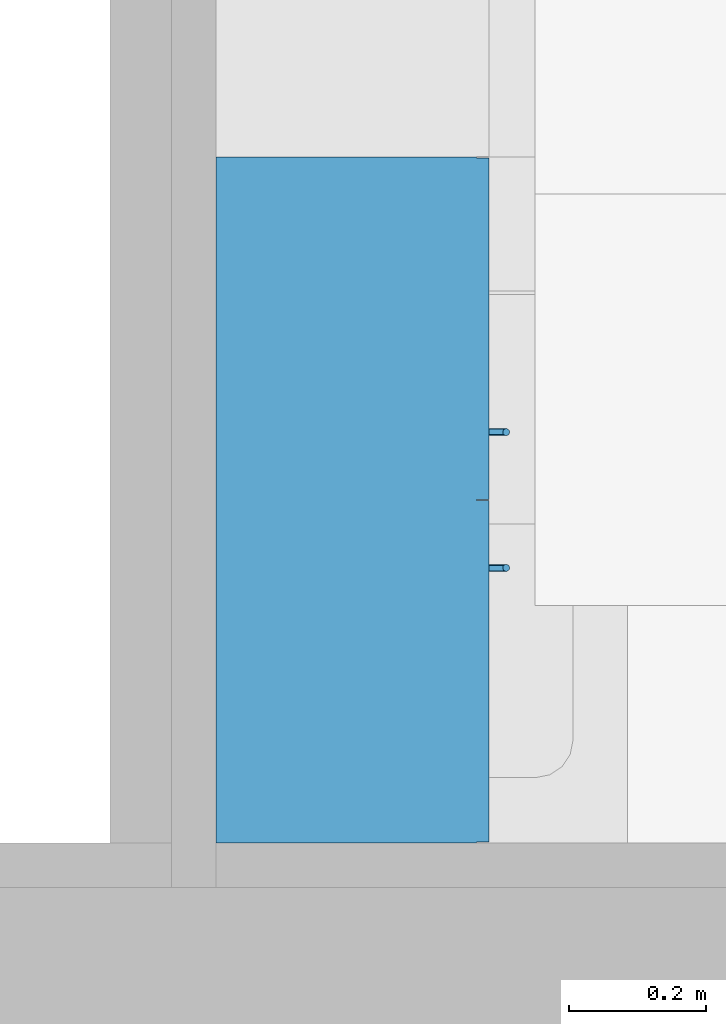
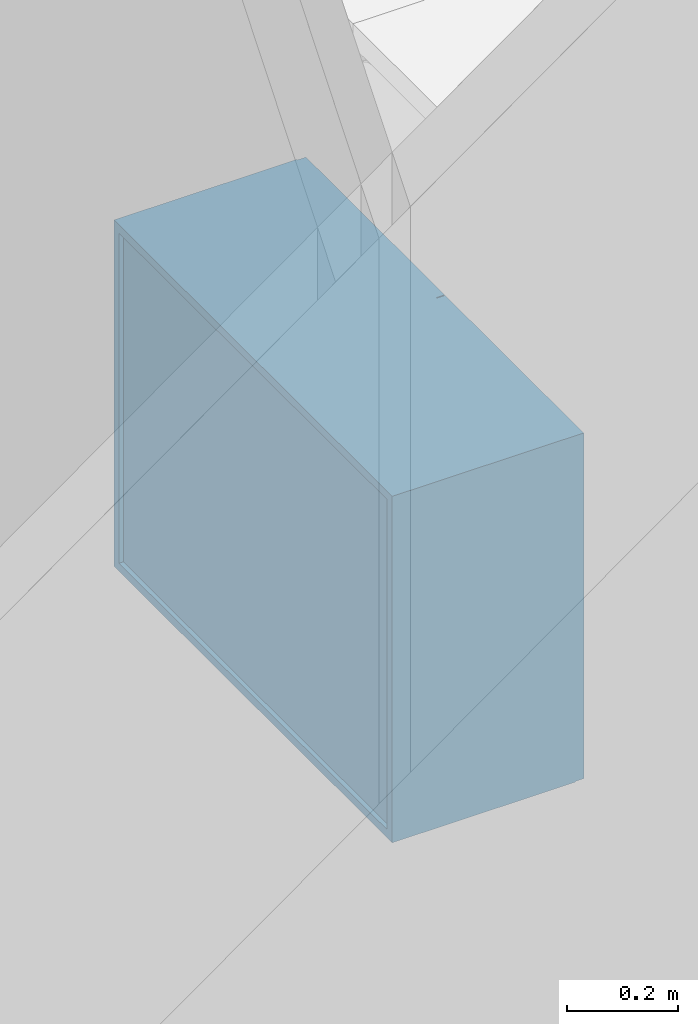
# One storey, part 44 of 60: 1 slab.
"""IFC2X3 building model written with IfcOpenShell, lengths in millimetres."""

from ifc_helpers import new_model, entity, si_unit, converted_unit, derived_unit, money_unit, direction, frame, origin_with_axes, place, context, subcontext, project, spatial, faceted_brep, type_object, element, save


model = new_model("IFC2X3")

# Units and contexts
model_context = context("Model", 3, precision=0.01, world=origin_with_axes(), true_north=direction((0.0, 1.0)))
body_context = subcontext(model_context, "Body", "Model", "MODEL_VIEW")
ifc_project = project(units=[si_unit("LENGTHUNIT", "METRE", prefix="MILLI"), si_unit("AREAUNIT", "SQUARE_METRE"), si_unit("VOLUMEUNIT", "CUBIC_METRE"), converted_unit("PLANEANGLEUNIT", "DEGREE", entity("IfcPlaneAngleMeasure", 0.0174532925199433), si_unit("PLANEANGLEUNIT", "RADIAN"), dimensions=[0, 0, 0, 0, 0, 0, 0]), money_unit("USD"), converted_unit("TIMEUNIT", "Year", entity("IfcTimeMeasure", 31557600.0), si_unit("TIMEUNIT", "SECOND"), dimensions=[0, 0, 1, 0, 0, 0, 0]), si_unit("MASSUNIT", "GRAM", prefix="KILO"), si_unit("THERMODYNAMICTEMPERATUREUNIT", "DEGREE_CELSIUS"), si_unit("LUMINOUSINTENSITYUNIT", "LUMEN"), si_unit("ENERGYUNIT", "JOULE", prefix="MEGA"), derived_unit("THERMALCONDUCTANCEUNIT", [(si_unit("POWERUNIT", "WATT"), 1), (si_unit("LENGTHUNIT", "METRE"), -1), (si_unit("THERMODYNAMICTEMPERATUREUNIT", "KELVIN"), -1)]), derived_unit("SPECIFICHEATCAPACITYUNIT", [(si_unit("ENERGYUNIT", "JOULE"), 1), (si_unit("MASSUNIT", "GRAM", prefix="KILO"), -1), (si_unit("THERMODYNAMICTEMPERATUREUNIT", "KELVIN"), -1)]), derived_unit("MASSDENSITYUNIT", [(si_unit("MASSUNIT", "GRAM", prefix="KILO"), 1), (si_unit("VOLUMEUNIT", "CUBIC_METRE"), -1)])], contexts=[model_context])

# Site, building, storey
site_placement = place(None, origin_with_axes())
site = spatial("IfcSite", under=ifc_project, at=site_placement, Name="Sitio", CompositionType="ELEMENT")
building_placement = place(site_placement, origin_with_axes())
building = spatial("IfcBuilding", under=site, at=building_placement, Name="Construcción", CompositionType="ELEMENT")
storey_placement = place(building_placement, frame((0.0, 0.0, 3650.0), z_axis=(0.0, 0.0, 1.0), x_axis=(1.0, 0.0, 0.0)))
storey = spatial("IfcBuildingStorey", under=building, at=storey_placement, Name="PLANTA 2ª", CompositionType="ELEMENT", Elevation=3650.0)

# Slab
slab_type = type_object("IfcSlabType", Name="Armario Mural 27", PredefinedType="FLOOR")
slab_placement = place(storey_placement, frame((-22963.41789761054, -1128.97582371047, -59.99999999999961), z_axis=(0.0, 0.0, 1.0), x_axis=(0.0, 1.0, 0.0)))
element("IfcSlab", 1, at=slab_placement, inside=storey, type_object=slab_type, Name="60.20.50 Armari", PredefinedType="FLOOR", context=body_context, shape_type="Brep", body=[
    faceted_brep([(18.0, -380.0, 1871.0), (982.0, -380.0, 1871.0), (982.0, -380.0, 1889.0), (18.0, -380.0, 1889.0), (18.0, -18.0, 1871.0), (982.0, -18.0, 1871.0), (982.0, -18.0, 1889.0), (18.0, -18.0, 1889.0)], [[[0, 1, 2, 3]], [[0, 4, 5, 1]], [[1, 5, 6, 2]], [[3, 2, 6, 7]], [[4, 0, 3, 7]], [[5, 4, 7, 6]]]),
    faceted_brep([(401.8682408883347, -398.0, 1932.799038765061), (402.7101007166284, -398.0, 1932.573463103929), (403.5, -398.0, 1932.205127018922), (404.2139380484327, -398.0, 1931.705222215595), (404.8302222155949, -398.0, 1931.088938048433), (405.3301270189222, -398.0, 1930.375), (405.6984631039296, -398.0, 1929.585100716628), (405.9240387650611, -398.0, 1928.743240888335), (406.0, -398.0, 1927.875), (405.9240387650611, -398.0, 1927.006759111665), (405.6984631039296, -398.0, 1926.164899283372), (405.3301270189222, -398.0, 1925.375), (404.8302222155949, -398.0, 1924.661061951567), (404.2139380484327, -398.0, 1924.044777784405), (403.5, -398.0, 1923.544872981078), (402.7101007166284, -398.0, 1923.176536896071), (401.8682408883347, -398.0, 1922.950961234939), (401.0, -398.0, 1922.875), (400.1317591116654, -398.0, 1922.950961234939), (399.2898992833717, -398.0, 1923.176536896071), (398.5, -398.0, 1923.544872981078), (397.7860619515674, -398.0, 1924.044777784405), (397.1697777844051, -398.0, 1924.661061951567), (396.6698729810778, -398.0, 1925.375), (396.3015368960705, -398.0, 1926.164899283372), (396.075961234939, -398.0, 1927.006759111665), (396.0, -398.0, 1927.875), (396.075961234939, -398.0, 1928.743240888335), (396.3015368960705, -398.0, 1929.585100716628), (396.6698729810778, -398.0, 1930.375), (397.1697777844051, -398.0, 1931.088938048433), (397.7860619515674, -398.0, 1931.705222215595), (398.5, -398.0, 1932.205127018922), (399.2898992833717, -398.0, 1932.573463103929), (400.1317591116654, -398.0, 1932.799038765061), (401.0, -398.0, 1932.875), (401.8682408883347, -423.0000000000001, 1932.799038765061), (402.7101007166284, -423.0000000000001, 1932.573463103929), (403.5, -423.0000000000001, 1932.205127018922), (404.2139380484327, -423.0000000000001, 1931.705222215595), (404.8302222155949, -423.0000000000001, 1931.088938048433), (405.3301270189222, -423.0000000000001, 1930.375), (405.6984631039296, -423.0000000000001, 1929.585100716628), (405.9240387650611, -423.0000000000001, 1928.743240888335), (406.0, -423.0000000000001, 1927.875), (405.9240387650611, -423.0000000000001, 1927.006759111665), (405.6984631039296, -423.0000000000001, 1926.164899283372), (405.3301270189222, -423.0000000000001, 1925.375), (404.8302222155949, -423.0000000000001, 1924.661061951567), (404.2139380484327, -423.0000000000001, 1924.044777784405), (403.5, -423.0000000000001, 1923.544872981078), (402.7101007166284, -423.0000000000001, 1923.176536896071), (401.8682408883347, -423.0000000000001, 1922.950961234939), (401.0, -423.0000000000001, 1922.875), (400.1317591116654, -423.0000000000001, 1922.950961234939), (399.2898992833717, -423.0000000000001, 1923.176536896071), (398.5, -423.0000000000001, 1923.544872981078), (397.7860619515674, -423.0000000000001, 1924.044777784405), (397.1697777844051, -423.0000000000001, 1924.661061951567), (396.6698729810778, -423.0000000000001, 1925.375), (396.3015368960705, -423.0000000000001, 1926.164899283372), (396.075961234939, -423.0000000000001, 1927.006759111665), (396.0, -423.0000000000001, 1927.875), (396.075961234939, -423.0000000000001, 1928.743240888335), (396.3015368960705, -423.0000000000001, 1929.585100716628), (396.6698729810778, -423.0000000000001, 1930.375), (397.1697777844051, -423.0000000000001, 1931.088938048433), (397.7860619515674, -423.0000000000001, 1931.705222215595), (398.5, -423.0000000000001, 1932.205127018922), (399.2898992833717, -423.0000000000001, 1932.573463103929), (400.1317591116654, -423.0000000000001, 1932.799038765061), (401.0, -423.0000000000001, 1932.875)], [[[0, 1, 2, 3, 4, 5, 6, 7, 8, 9, 10, 11, 12, 13, 14, 15, 16, 17, 18, 19, 20, 21, 22, 23, 24, 25, 26, 27, 28, 29, 30, 31, 32, 33, 34, 35]], [[1, 0, 36, 37]], [[2, 1, 37, 38]], [[3, 2, 38, 39]], [[4, 3, 39, 40]], [[5, 4, 40, 41]], [[6, 5, 41, 42]], [[7, 6, 42, 43]], [[8, 7, 43, 44]], [[9, 8, 44, 45]], [[10, 9, 45, 46]], [[11, 10, 46, 47]], [[12, 11, 47, 48]], [[13, 12, 48, 49]], [[14, 13, 49, 50]], [[15, 14, 50, 51]], [[16, 15, 51, 52]], [[17, 16, 52, 53]], [[18, 17, 53, 54]], [[19, 18, 54, 55]], [[20, 19, 55, 56]], [[21, 20, 56, 57]], [[22, 21, 57, 58]], [[23, 22, 58, 59]], [[24, 23, 59, 60]], [[25, 24, 60, 61]], [[26, 25, 61, 62]], [[27, 26, 62, 63]], [[28, 27, 63, 64]], [[29, 28, 64, 65]], [[30, 29, 65, 66]], [[31, 30, 66, 67]], [[32, 31, 67, 68]], [[33, 32, 68, 69]], [[34, 33, 69, 70]], [[35, 34, 70, 71]], [[0, 35, 71, 36]], [[36, 71, 70, 69, 68, 67, 66, 65, 64, 63, 62, 61, 60, 59, 58, 57, 56, 55, 54, 53, 52, 51, 50, 49, 48, 47, 46, 45, 44, 43, 42, 41, 40, 39, 38, 37]]]),
    faceted_brep([(401.8682408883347, -397.9999999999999, 1829.200961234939), (401.0, -397.9999999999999, 1829.125), (400.1317591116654, -397.9999999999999, 1829.200961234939), (399.2898992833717, -397.9999999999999, 1829.426536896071), (398.5, -397.9999999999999, 1829.794872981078), (397.7860619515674, -397.9999999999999, 1830.294777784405), (397.1697777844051, -397.9999999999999, 1830.911061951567), (396.6698729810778, -397.9999999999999, 1831.625), (396.3015368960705, -397.9999999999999, 1832.414899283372), (396.075961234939, -397.9999999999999, 1833.256759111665), (396.0, -397.9999999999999, 1834.125), (396.075961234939, -397.9999999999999, 1834.993240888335), (396.3015368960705, -397.9999999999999, 1835.835100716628), (396.6698729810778, -397.9999999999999, 1836.625), (397.1697777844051, -397.9999999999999, 1837.338938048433), (397.7860619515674, -397.9999999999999, 1837.955222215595), (398.5, -397.9999999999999, 1838.455127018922), (399.2898992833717, -397.9999999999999, 1838.823463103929), (400.1317591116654, -397.9999999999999, 1839.049038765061), (401.0, -397.9999999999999, 1839.125), (401.8682408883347, -397.9999999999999, 1839.049038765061), (402.7101007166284, -397.9999999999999, 1838.823463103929), (403.5, -397.9999999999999, 1838.455127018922), (404.2139380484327, -397.9999999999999, 1837.955222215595), (404.8302222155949, -397.9999999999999, 1837.338938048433), (405.3301270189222, -397.9999999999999, 1836.625), (405.6984631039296, -397.9999999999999, 1835.835100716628), (405.9240387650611, -397.9999999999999, 1834.993240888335), (406.0, -397.9999999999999, 1834.125), (405.9240387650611, -397.9999999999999, 1833.256759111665), (405.6984631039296, -397.9999999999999, 1832.414899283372), (405.3301270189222, -397.9999999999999, 1831.625), (404.8302222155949, -397.9999999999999, 1830.911061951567), (404.2139380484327, -397.9999999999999, 1830.294777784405), (403.5, -397.9999999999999, 1829.794872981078), (402.7101007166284, -397.9999999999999, 1829.426536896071), (401.8682408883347, -423.0, 1829.200961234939), (401.0, -423.0, 1829.125), (400.1317591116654, -423.0, 1829.200961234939), (399.2898992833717, -423.0, 1829.426536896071), (398.5, -423.0, 1829.794872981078), (397.7860619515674, -423.0, 1830.294777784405), (397.1697777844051, -423.0, 1830.911061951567), (396.6698729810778, -423.0, 1831.625), (396.3015368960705, -423.0, 1832.414899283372), (396.075961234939, -423.0, 1833.256759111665), (396.0, -423.0, 1834.125), (396.075961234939, -423.0, 1834.993240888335), (396.3015368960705, -423.0, 1835.835100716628), (396.6698729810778, -423.0, 1836.625), (397.1697777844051, -423.0, 1837.338938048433), (397.7860619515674, -423.0, 1837.955222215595), (398.5, -423.0, 1838.455127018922), (399.2898992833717, -423.0, 1838.823463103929), (400.1317591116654, -423.0, 1839.049038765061), (401.0, -423.0, 1839.125), (401.8682408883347, -423.0, 1839.049038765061), (402.7101007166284, -423.0, 1838.823463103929), (403.5, -423.0, 1838.455127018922), (404.2139380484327, -423.0, 1837.955222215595), (404.8302222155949, -423.0, 1837.338938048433), (405.3301270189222, -423.0, 1836.625), (405.6984631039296, -423.0, 1835.835100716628), (405.9240387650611, -423.0, 1834.993240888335), (406.0, -423.0, 1834.125), (405.9240387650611, -423.0, 1833.256759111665), (405.6984631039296, -423.0, 1832.414899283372), (405.3301270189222, -423.0, 1831.625), (404.8302222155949, -423.0, 1830.911061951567), (404.2139380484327, -423.0, 1830.294777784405), (403.5, -423.0, 1829.794872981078), (402.7101007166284, -423.0, 1829.426536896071)], [[[0, 1, 2, 3, 4, 5, 6, 7, 8, 9, 10, 11, 12, 13, 14, 15, 16, 17, 18, 19, 20, 21, 22, 23, 24, 25, 26, 27, 28, 29, 30, 31, 32, 33, 34, 35]], [[0, 36, 37, 1]], [[1, 37, 38, 2]], [[2, 38, 39, 3]], [[3, 39, 40, 4]], [[4, 40, 41, 5]], [[5, 41, 42, 6]], [[6, 42, 43, 7]], [[7, 43, 44, 8]], [[8, 44, 45, 9]], [[9, 45, 46, 10]], [[10, 46, 47, 11]], [[11, 47, 48, 12]], [[12, 48, 49, 13]], [[13, 49, 50, 14]], [[14, 50, 51, 15]], [[15, 51, 52, 16]], [[16, 52, 53, 17]], [[17, 53, 54, 18]], [[18, 54, 55, 19]], [[19, 55, 56, 20]], [[20, 56, 57, 21]], [[21, 57, 58, 22]], [[22, 58, 59, 23]], [[23, 59, 60, 24]], [[24, 60, 61, 25]], [[25, 61, 62, 26]], [[26, 62, 63, 27]], [[27, 63, 64, 28]], [[28, 64, 65, 29]], [[29, 65, 66, 30]], [[30, 66, 67, 31]], [[31, 67, 68, 32]], [[32, 68, 69, 33]], [[33, 69, 70, 34]], [[34, 70, 71, 35]], [[35, 71, 36, 0]], [[36, 71, 70, 69, 68, 67, 66, 65, 64, 63, 62, 61, 60, 59, 58, 57, 56, 55, 54, 53, 52, 51, 50, 49, 48, 47, 46, 45, 44, 43, 42, 41, 40, 39, 38, 37]]]),
    faceted_brep([(401.8682408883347, -418.075961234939, 1806.0), (402.7101007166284, -418.3015368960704, 1806.0), (403.5, -418.6698729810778, 1806.0), (404.2139380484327, -419.1697777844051, 1806.0), (404.8302222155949, -419.7860619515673, 1806.0), (405.3301270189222, -420.5, 1806.0), (405.6984631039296, -421.2898992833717, 1806.0), (405.9240387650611, -422.1317591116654, 1806.0), (406.0, -423.0, 1806.0), (405.9240387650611, -423.8682408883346, 1806.0), (405.6984631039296, -424.7101007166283, 1806.0), (405.3301270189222, -425.5, 1806.0), (404.8302222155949, -426.2139380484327, 1806.0), (404.2139380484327, -426.8302222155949, 1806.0), (403.5, -427.3301270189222, 1806.0), (402.7101007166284, -427.6984631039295, 1806.0), (401.8682408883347, -427.924038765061, 1806.0), (401.0, -428.0, 1806.0), (400.1317591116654, -427.924038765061, 1806.0), (399.2898992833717, -427.6984631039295, 1806.0), (398.5, -427.3301270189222, 1806.0), (397.7860619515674, -426.8302222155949, 1806.0), (397.1697777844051, -426.2139380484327, 1806.0), (396.6698729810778, -425.5, 1806.0), (396.3015368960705, -424.7101007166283, 1806.0), (396.075961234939, -423.8682408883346, 1806.0), (396.0, -423.0, 1806.0), (396.075961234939, -422.1317591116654, 1806.0), (396.3015368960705, -421.2898992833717, 1806.0), (396.6698729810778, -420.5, 1806.0), (397.1697777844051, -419.7860619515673, 1806.0), (397.7860619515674, -419.1697777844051, 1806.0), (398.5, -418.6698729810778, 1806.0), (399.2898992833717, -418.3015368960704, 1806.0), (400.1317591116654, -418.075961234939, 1806.0), (401.0, -418.0, 1806.0), (401.8682408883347, -418.075961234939, 1956.0), (402.7101007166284, -418.3015368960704, 1956.0), (403.5, -418.6698729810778, 1956.0), (404.2139380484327, -419.1697777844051, 1956.0), (404.8302222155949, -419.7860619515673, 1956.0), (405.3301270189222, -420.5, 1956.0), (405.6984631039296, -421.2898992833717, 1956.0), (405.9240387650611, -422.1317591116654, 1956.0), (406.0, -423.0, 1956.0), (405.9240387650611, -423.8682408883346, 1956.0), (405.6984631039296, -424.7101007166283, 1956.0), (405.3301270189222, -425.5, 1956.0), (404.8302222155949, -426.2139380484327, 1956.0), (404.2139380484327, -426.8302222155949, 1956.0), (403.5, -427.3301270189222, 1956.0), (402.7101007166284, -427.6984631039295, 1956.0), (401.8682408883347, -427.924038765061, 1956.0), (401.0, -428.0, 1956.0), (400.1317591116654, -427.924038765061, 1956.0), (399.2898992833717, -427.6984631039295, 1956.0), (398.5, -427.3301270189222, 1956.0), (397.7860619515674, -426.8302222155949, 1956.0), (397.1697777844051, -426.2139380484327, 1956.0), (396.6698729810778, -425.5, 1956.0), (396.3015368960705, -424.7101007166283, 1956.0), (396.075961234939, -423.8682408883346, 1956.0), (396.0, -423.0, 1956.0), (396.075961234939, -422.1317591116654, 1956.0), (396.3015368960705, -421.2898992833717, 1956.0), (396.6698729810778, -420.5, 1956.0), (397.1697777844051, -419.7860619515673, 1956.0), (397.7860619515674, -419.1697777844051, 1956.0), (398.5, -418.6698729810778, 1956.0), (399.2898992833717, -418.3015368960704, 1956.0), (400.1317591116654, -418.075961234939, 1956.0), (401.0, -418.0, 1956.0)], [[[0, 1, 2, 3, 4, 5, 6, 7, 8, 9, 10, 11, 12, 13, 14, 15, 16, 17, 18, 19, 20, 21, 22, 23, 24, 25, 26, 27, 28, 29, 30, 31, 32, 33, 34, 35]], [[1, 0, 36, 37]], [[2, 1, 37, 38]], [[3, 2, 38, 39]], [[4, 3, 39, 40]], [[5, 4, 40, 41]], [[6, 5, 41, 42]], [[7, 6, 42, 43]], [[8, 7, 43, 44]], [[9, 8, 44, 45]], [[10, 9, 45, 46]], [[11, 10, 46, 47]], [[12, 11, 47, 48]], [[13, 12, 48, 49]], [[14, 13, 49, 50]], [[15, 14, 50, 51]], [[16, 15, 51, 52]], [[17, 16, 52, 53]], [[18, 17, 53, 54]], [[19, 18, 54, 55]], [[20, 19, 55, 56]], [[21, 20, 56, 57]], [[22, 21, 57, 58]], [[23, 22, 58, 59]], [[24, 23, 59, 60]], [[25, 24, 60, 61]], [[26, 25, 61, 62]], [[27, 26, 62, 63]], [[28, 27, 63, 64]], [[29, 28, 64, 65]], [[30, 29, 65, 66]], [[31, 30, 66, 67]], [[32, 31, 67, 68]], [[33, 32, 68, 69]], [[34, 33, 69, 70]], [[35, 34, 70, 71]], [[0, 35, 71, 36]], [[36, 71, 70, 69, 68, 67, 66, 65, 64, 63, 62, 61, 60, 59, 58, 57, 56, 55, 54, 53, 52, 51, 50, 49, 48, 47, 46, 45, 44, 43, 42, 41, 40, 39, 38, 37]]]),
    faceted_brep([(1.0, -380.0, 1501.0), (499.0, -380.0, 1501.0), (499.0, -398.0, 1501.0), (1.0, -398.0, 1501.0), (1.0, -379.9999999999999, 2259.0), (499.0, -379.9999999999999, 2259.0), (499.0, -397.9999999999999, 2259.0), (1.0, -397.9999999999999, 2259.0)], [[[0, 1, 2, 3]], [[0, 4, 5, 1]], [[1, 5, 6, 2]], [[3, 2, 6, 7]], [[4, 0, 3, 7]], [[5, 4, 7, 6]]]),
    faceted_brep([(598.1317591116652, -398.0, 1932.799038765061), (599.0, -398.0, 1932.875), (599.8682408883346, -398.0, 1932.799038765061), (600.7101007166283, -398.0, 1932.573463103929), (601.4999999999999, -398.0, 1932.205127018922), (602.2139380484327, -398.0, 1931.705222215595), (602.8302222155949, -398.0, 1931.088938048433), (603.3301270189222, -398.0, 1930.375), (603.6984631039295, -398.0, 1929.585100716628), (603.924038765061, -398.0, 1928.743240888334), (604.0, -398.0, 1927.875), (603.924038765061, -398.0, 1927.006759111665), (603.6984631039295, -398.0, 1926.164899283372), (603.3301270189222, -398.0, 1925.375), (602.8302222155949, -398.0, 1924.661061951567), (602.2139380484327, -398.0, 1924.044777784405), (601.4999999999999, -398.0, 1923.544872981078), (600.7101007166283, -398.0, 1923.17653689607), (599.8682408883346, -398.0, 1922.950961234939), (599.0, -398.0, 1922.875), (598.1317591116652, -398.0, 1922.950961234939), (597.2898992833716, -398.0, 1923.17653689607), (596.5, -398.0, 1923.544872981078), (595.7860619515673, -398.0, 1924.044777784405), (595.169777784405, -398.0, 1924.661061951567), (594.6698729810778, -398.0, 1925.375), (594.3015368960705, -398.0, 1926.164899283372), (594.075961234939, -398.0, 1927.006759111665), (594.0, -398.0, 1927.875), (594.075961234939, -398.0, 1928.743240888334), (594.3015368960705, -398.0, 1929.585100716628), (594.6698729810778, -398.0, 1930.375), (595.169777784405, -398.0, 1931.088938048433), (595.7860619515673, -398.0, 1931.705222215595), (596.5, -398.0, 1932.205127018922), (597.2898992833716, -398.0, 1932.573463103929), (598.1317591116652, -423.0000000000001, 1932.799038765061), (599.0, -423.0000000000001, 1932.875), (599.8682408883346, -423.0000000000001, 1932.799038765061), (600.7101007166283, -423.0000000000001, 1932.573463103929), (601.4999999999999, -423.0000000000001, 1932.205127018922), (602.2139380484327, -423.0000000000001, 1931.705222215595), (602.8302222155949, -423.0000000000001, 1931.088938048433), (603.3301270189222, -423.0000000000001, 1930.375), (603.6984631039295, -423.0000000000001, 1929.585100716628), (603.924038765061, -423.0000000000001, 1928.743240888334), (604.0, -423.0000000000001, 1927.875), (603.924038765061, -423.0000000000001, 1927.006759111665), (603.6984631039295, -423.0000000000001, 1926.164899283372), (603.3301270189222, -423.0000000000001, 1925.375), (602.8302222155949, -423.0000000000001, 1924.661061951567), (602.2139380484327, -423.0000000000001, 1924.044777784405), (601.4999999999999, -423.0000000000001, 1923.544872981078), (600.7101007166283, -423.0000000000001, 1923.17653689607), (599.8682408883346, -423.0000000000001, 1922.950961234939), (599.0, -423.0000000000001, 1922.875), (598.1317591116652, -423.0000000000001, 1922.950961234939), (597.2898992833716, -423.0000000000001, 1923.17653689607), (596.5, -423.0000000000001, 1923.544872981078), (595.7860619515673, -423.0000000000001, 1924.044777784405), (595.169777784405, -423.0000000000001, 1924.661061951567), (594.6698729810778, -423.0000000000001, 1925.375), (594.3015368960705, -423.0000000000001, 1926.164899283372), (594.075961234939, -423.0000000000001, 1927.006759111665), (594.0, -423.0000000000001, 1927.875), (594.075961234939, -423.0000000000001, 1928.743240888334), (594.3015368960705, -423.0000000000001, 1929.585100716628), (594.6698729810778, -423.0000000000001, 1930.375), (595.169777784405, -423.0000000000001, 1931.088938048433), (595.7860619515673, -423.0000000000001, 1931.705222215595), (596.5, -423.0000000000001, 1932.205127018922), (597.2898992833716, -423.0000000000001, 1932.573463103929)], [[[0, 1, 2, 3, 4, 5, 6, 7, 8, 9, 10, 11, 12, 13, 14, 15, 16, 17, 18, 19, 20, 21, 22, 23, 24, 25, 26, 27, 28, 29, 30, 31, 32, 33, 34, 35]], [[0, 36, 37, 1]], [[1, 37, 38, 2]], [[2, 38, 39, 3]], [[3, 39, 40, 4]], [[4, 40, 41, 5]], [[5, 41, 42, 6]], [[6, 42, 43, 7]], [[7, 43, 44, 8]], [[8, 44, 45, 9]], [[9, 45, 46, 10]], [[10, 46, 47, 11]], [[11, 47, 48, 12]], [[12, 48, 49, 13]], [[13, 49, 50, 14]], [[14, 50, 51, 15]], [[15, 51, 52, 16]], [[16, 52, 53, 17]], [[17, 53, 54, 18]], [[18, 54, 55, 19]], [[19, 55, 56, 20]], [[20, 56, 57, 21]], [[21, 57, 58, 22]], [[22, 58, 59, 23]], [[23, 59, 60, 24]], [[24, 60, 61, 25]], [[25, 61, 62, 26]], [[26, 62, 63, 27]], [[27, 63, 64, 28]], [[28, 64, 65, 29]], [[29, 65, 66, 30]], [[30, 66, 67, 31]], [[31, 67, 68, 32]], [[32, 68, 69, 33]], [[33, 69, 70, 34]], [[34, 70, 71, 35]], [[35, 71, 36, 0]], [[36, 71, 70, 69, 68, 67, 66, 65, 64, 63, 62, 61, 60, 59, 58, 57, 56, 55, 54, 53, 52, 51, 50, 49, 48, 47, 46, 45, 44, 43, 42, 41, 40, 39, 38, 37]]]),
    faceted_brep([(598.1317591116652, -397.9999999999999, 1829.200961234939), (597.2898992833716, -397.9999999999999, 1829.426536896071), (596.5, -397.9999999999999, 1829.794872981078), (595.7860619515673, -397.9999999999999, 1830.294777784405), (595.169777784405, -397.9999999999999, 1830.911061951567), (594.6698729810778, -397.9999999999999, 1831.625), (594.3015368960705, -397.9999999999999, 1832.414899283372), (594.075961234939, -397.9999999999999, 1833.256759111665), (594.0, -397.9999999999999, 1834.125), (594.075961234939, -397.9999999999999, 1834.993240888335), (594.3015368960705, -397.9999999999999, 1835.835100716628), (594.6698729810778, -397.9999999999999, 1836.625), (595.169777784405, -397.9999999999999, 1837.338938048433), (595.7860619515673, -397.9999999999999, 1837.955222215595), (596.5, -397.9999999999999, 1838.455127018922), (597.2898992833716, -397.9999999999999, 1838.823463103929), (598.1317591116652, -397.9999999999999, 1839.049038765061), (599.0, -397.9999999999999, 1839.125), (599.8682408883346, -397.9999999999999, 1839.049038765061), (600.7101007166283, -397.9999999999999, 1838.823463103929), (601.4999999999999, -397.9999999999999, 1838.455127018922), (602.2139380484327, -397.9999999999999, 1837.955222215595), (602.8302222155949, -397.9999999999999, 1837.338938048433), (603.3301270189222, -397.9999999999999, 1836.625), (603.6984631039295, -397.9999999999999, 1835.835100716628), (603.924038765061, -397.9999999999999, 1834.993240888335), (604.0, -397.9999999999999, 1834.125), (603.924038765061, -397.9999999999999, 1833.256759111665), (603.6984631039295, -397.9999999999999, 1832.414899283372), (603.3301270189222, -397.9999999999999, 1831.625), (602.8302222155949, -397.9999999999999, 1830.911061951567), (602.2139380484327, -397.9999999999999, 1830.294777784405), (601.4999999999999, -397.9999999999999, 1829.794872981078), (600.7101007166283, -397.9999999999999, 1829.426536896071), (599.8682408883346, -397.9999999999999, 1829.200961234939), (599.0, -397.9999999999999, 1829.125), (598.1317591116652, -423.0, 1829.200961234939), (597.2898992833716, -423.0, 1829.426536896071), (596.5, -423.0, 1829.794872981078), (595.7860619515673, -423.0, 1830.294777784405), (595.169777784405, -423.0, 1830.911061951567), (594.6698729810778, -423.0, 1831.625), (594.3015368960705, -423.0, 1832.414899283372), (594.075961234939, -423.0, 1833.256759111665), (594.0, -423.0, 1834.125), (594.075961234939, -423.0, 1834.993240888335), (594.3015368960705, -423.0, 1835.835100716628), (594.6698729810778, -423.0, 1836.625), (595.169777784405, -423.0, 1837.338938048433), (595.7860619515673, -423.0, 1837.955222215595), (596.5, -423.0, 1838.455127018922), (597.2898992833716, -423.0, 1838.823463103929), (598.1317591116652, -423.0, 1839.049038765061), (599.0, -423.0, 1839.125), (599.8682408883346, -423.0, 1839.049038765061), (600.7101007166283, -423.0, 1838.823463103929), (601.4999999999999, -423.0, 1838.455127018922), (602.2139380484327, -423.0, 1837.955222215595), (602.8302222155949, -423.0, 1837.338938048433), (603.3301270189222, -423.0, 1836.625), (603.6984631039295, -423.0, 1835.835100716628), (603.924038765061, -423.0, 1834.993240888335), (604.0, -423.0, 1834.125), (603.924038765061, -423.0, 1833.256759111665), (603.6984631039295, -423.0, 1832.414899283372), (603.3301270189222, -423.0, 1831.625), (602.8302222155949, -423.0, 1830.911061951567), (602.2139380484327, -423.0, 1830.294777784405), (601.4999999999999, -423.0, 1829.794872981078), (600.7101007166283, -423.0, 1829.426536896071), (599.8682408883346, -423.0, 1829.200961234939), (599.0, -423.0, 1829.125)], [[[0, 1, 2, 3, 4, 5, 6, 7, 8, 9, 10, 11, 12, 13, 14, 15, 16, 17, 18, 19, 20, 21, 22, 23, 24, 25, 26, 27, 28, 29, 30, 31, 32, 33, 34, 35]], [[1, 0, 36, 37]], [[2, 1, 37, 38]], [[3, 2, 38, 39]], [[4, 3, 39, 40]], [[5, 4, 40, 41]], [[6, 5, 41, 42]], [[7, 6, 42, 43]], [[8, 7, 43, 44]], [[9, 8, 44, 45]], [[10, 9, 45, 46]], [[11, 10, 46, 47]], [[12, 11, 47, 48]], [[13, 12, 48, 49]], [[14, 13, 49, 50]], [[15, 14, 50, 51]], [[16, 15, 51, 52]], [[17, 16, 52, 53]], [[18, 17, 53, 54]], [[19, 18, 54, 55]], [[20, 19, 55, 56]], [[21, 20, 56, 57]], [[22, 21, 57, 58]], [[23, 22, 58, 59]], [[24, 23, 59, 60]], [[25, 24, 60, 61]], [[26, 25, 61, 62]], [[27, 26, 62, 63]], [[28, 27, 63, 64]], [[29, 28, 64, 65]], [[30, 29, 65, 66]], [[31, 30, 66, 67]], [[32, 31, 67, 68]], [[33, 32, 68, 69]], [[34, 33, 69, 70]], [[35, 34, 70, 71]], [[0, 35, 71, 36]], [[36, 71, 70, 69, 68, 67, 66, 65, 64, 63, 62, 61, 60, 59, 58, 57, 56, 55, 54, 53, 52, 51, 50, 49, 48, 47, 46, 45, 44, 43, 42, 41, 40, 39, 38, 37]]]),
    faceted_brep([(598.1317591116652, -418.075961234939, 1806.0), (599.0, -418.0, 1806.0), (599.8682408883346, -418.075961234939, 1806.0), (600.7101007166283, -418.3015368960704, 1806.0), (601.4999999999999, -418.6698729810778, 1806.0), (602.2139380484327, -419.1697777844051, 1806.0), (602.8302222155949, -419.7860619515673, 1806.0), (603.3301270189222, -420.5, 1806.0), (603.6984631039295, -421.2898992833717, 1806.0), (603.924038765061, -422.1317591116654, 1806.0), (604.0, -423.0, 1806.0), (603.924038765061, -423.8682408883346, 1806.0), (603.6984631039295, -424.7101007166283, 1806.0), (603.3301270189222, -425.5, 1806.0), (602.8302222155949, -426.2139380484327, 1806.0), (602.2139380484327, -426.8302222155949, 1806.0), (601.4999999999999, -427.3301270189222, 1806.0), (600.7101007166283, -427.6984631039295, 1806.0), (599.8682408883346, -427.924038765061, 1806.0), (599.0, -428.0, 1806.0), (598.1317591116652, -427.924038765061, 1806.0), (597.2898992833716, -427.6984631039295, 1806.0), (596.5, -427.3301270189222, 1806.0), (595.7860619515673, -426.8302222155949, 1806.0), (595.169777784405, -426.2139380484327, 1806.0), (594.6698729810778, -425.5, 1806.0), (594.3015368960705, -424.7101007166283, 1806.0), (594.075961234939, -423.8682408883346, 1806.0), (594.0, -423.0, 1806.0), (594.075961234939, -422.1317591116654, 1806.0), (594.3015368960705, -421.2898992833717, 1806.0), (594.6698729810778, -420.5, 1806.0), (595.169777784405, -419.7860619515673, 1806.0), (595.7860619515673, -419.1697777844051, 1806.0), (596.5, -418.6698729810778, 1806.0), (597.2898992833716, -418.3015368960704, 1806.0), (598.1317591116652, -418.075961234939, 1956.0), (599.0, -418.0, 1956.0), (599.8682408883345, -418.075961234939, 1956.0), (600.7101007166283, -418.3015368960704, 1956.0), (601.4999999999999, -418.6698729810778, 1956.0), (602.2139380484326, -419.1697777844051, 1956.0), (602.8302222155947, -419.7860619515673, 1956.0), (603.3301270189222, -420.5, 1956.0), (603.6984631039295, -421.2898992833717, 1956.0), (603.9240387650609, -422.1317591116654, 1956.0), (604.0, -423.0, 1956.0), (603.9240387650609, -423.8682408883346, 1956.0), (603.6984631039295, -424.7101007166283, 1956.0), (603.3301270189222, -425.5, 1956.0), (602.8302222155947, -426.2139380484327, 1956.0), (602.2139380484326, -426.8302222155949, 1956.0), (601.4999999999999, -427.3301270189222, 1956.0), (600.7101007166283, -427.6984631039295, 1956.0), (599.8682408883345, -427.924038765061, 1956.0), (599.0, -428.0, 1956.0), (598.1317591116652, -427.924038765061, 1956.0), (597.2898992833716, -427.6984631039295, 1956.0), (596.4999999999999, -427.3301270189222, 1956.0), (595.7860619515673, -426.8302222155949, 1956.0), (595.169777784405, -426.2139380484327, 1956.0), (594.6698729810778, -425.5, 1956.0), (594.3015368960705, -424.7101007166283, 1956.0), (594.0759612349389, -423.8682408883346, 1956.0), (594.0, -423.0, 1956.0), (594.0759612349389, -422.1317591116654, 1956.0), (594.3015368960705, -421.2898992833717, 1956.0), (594.6698729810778, -420.5, 1956.0), (595.169777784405, -419.7860619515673, 1956.0), (595.7860619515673, -419.1697777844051, 1956.0), (596.4999999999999, -418.6698729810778, 1956.0), (597.2898992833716, -418.3015368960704, 1956.0)], [[[0, 1, 2, 3, 4, 5, 6, 7, 8, 9, 10, 11, 12, 13, 14, 15, 16, 17, 18, 19, 20, 21, 22, 23, 24, 25, 26, 27, 28, 29, 30, 31, 32, 33, 34, 35]], [[0, 36, 37, 1]], [[1, 37, 38, 2]], [[2, 38, 39, 3]], [[3, 39, 40, 4]], [[4, 40, 41, 5]], [[5, 41, 42, 6]], [[6, 42, 43, 7]], [[7, 43, 44, 8]], [[8, 44, 45, 9]], [[9, 45, 46, 10]], [[10, 46, 47, 11]], [[11, 47, 48, 12]], [[12, 48, 49, 13]], [[13, 49, 50, 14]], [[14, 50, 51, 15]], [[15, 51, 52, 16]], [[16, 52, 53, 17]], [[17, 53, 54, 18]], [[18, 54, 55, 19]], [[19, 55, 56, 20]], [[20, 56, 57, 21]], [[21, 57, 58, 22]], [[22, 58, 59, 23]], [[23, 59, 60, 24]], [[24, 60, 61, 25]], [[25, 61, 62, 26]], [[26, 62, 63, 27]], [[27, 63, 64, 28]], [[28, 64, 65, 29]], [[29, 65, 66, 30]], [[30, 66, 67, 31]], [[31, 67, 68, 32]], [[32, 68, 69, 33]], [[33, 69, 70, 34]], [[34, 70, 71, 35]], [[35, 71, 36, 0]], [[36, 71, 70, 69, 68, 67, 66, 65, 64, 63, 62, 61, 60, 59, 58, 57, 56, 55, 54, 53, 52, 51, 50, 49, 48, 47, 46, 45, 44, 43, 42, 41, 40, 39, 38, 37]]]),
    faceted_brep([(999.0, -380.0, 1501.0), (999.0, -398.0, 1501.0), (501.0, -398.0, 1501.0), (501.0, -380.0, 1501.0), (998.9999999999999, -379.9999999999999, 2259.0), (998.9999999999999, -397.9999999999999, 2259.0), (500.9999999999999, -397.9999999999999, 2259.0), (500.9999999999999, -379.9999999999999, 2259.0)], [[[0, 1, 2, 3]], [[4, 5, 1, 0]], [[1, 5, 6, 2]], [[3, 2, 6, 7]], [[0, 3, 7, 4]], [[7, 6, 5, 4]]]),
    faceted_brep([(18.0, -380.0, 1500.0), (982.0, -380.0, 1500.0), (982.0, -380.0, 1518.0), (18.0, -380.0, 1518.0), (18.0, 0.0, 1500.0), (982.0, 0.0, 1500.0), (982.0, 0.0, 1518.0), (18.0, 0.0, 1518.0)], [[[0, 1, 2, 3]], [[0, 4, 5, 1]], [[1, 5, 6, 2]], [[3, 2, 6, 7]], [[4, 0, 3, 7]], [[5, 4, 7, 6]]]),
    faceted_brep([(18.0, -380.0, 2242.0), (982.0, -380.0, 2242.0), (982.0, -380.0, 2260.0), (18.0, -380.0, 2260.0), (18.0, 0.0, 2242.0), (982.0, 0.0, 2242.0), (982.0, 0.0, 2260.0), (18.0, 0.0, 2260.0)], [[[0, 1, 2, 3]], [[0, 4, 5, 1]], [[1, 5, 6, 2]], [[3, 2, 6, 7]], [[4, 0, 3, 7]], [[5, 4, 7, 6]]]),
    faceted_brep([(0.0, 0.0, 1500.0), (0.0, -380.0, 1500.0), (0.0, -380.0, 2260.0), (0.0, 0.0, 2260.0), (18.0, 0.0, 1500.0), (18.0, -380.0, 1500.0), (18.0, -380.0, 2260.0), (18.0, 0.0, 2260.0)], [[[0, 1, 2, 3]], [[0, 4, 5, 1]], [[1, 5, 6, 2]], [[3, 2, 6, 7]], [[4, 0, 3, 7]], [[5, 4, 7, 6]]]),
    faceted_brep([(1000.0, -380.0, 1500.0), (1000.0, 0.0, 1500.0), (1000.0, 0.0, 2260.0), (1000.0, -380.0, 2260.0), (982.0, -380.0, 1500.0), (982.0, 0.0, 1500.0), (982.0, 0.0, 2260.0), (982.0, -380.0, 2260.0)], [[[0, 1, 2, 3]], [[0, 4, 5, 1]], [[1, 5, 6, 2]], [[3, 2, 6, 7]], [[4, 0, 3, 7]], [[5, 4, 7, 6]]]),
    faceted_brep([(982.0, -9.0, 1518.0), (18.00000000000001, -9.0, 1518.0), (18.00000000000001, -9.0, 2242.0), (982.0, -9.0, 2242.0), (982.0, -18.0, 1518.0), (18.00000000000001, -18.0, 1518.0), (18.00000000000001, -18.0, 2242.0), (982.0, -18.0, 2242.0)], [[[0, 1, 2, 3]], [[0, 4, 5, 1]], [[1, 5, 6, 2]], [[3, 2, 6, 7]], [[4, 0, 3, 7]], [[5, 4, 7, 6]]]),
])

save(model, "model.ifc")
